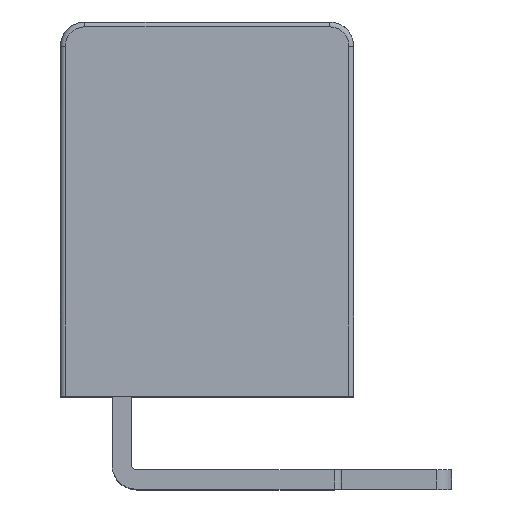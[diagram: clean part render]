
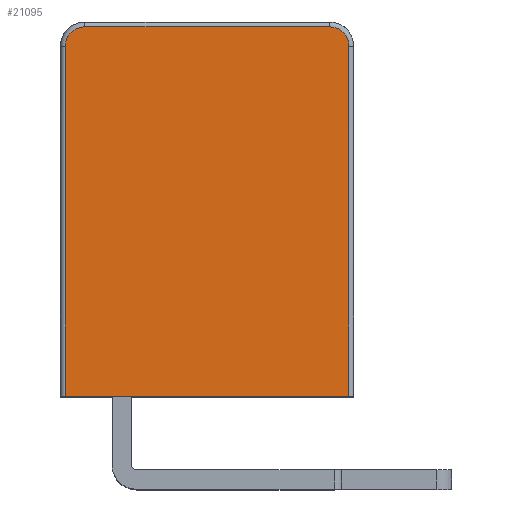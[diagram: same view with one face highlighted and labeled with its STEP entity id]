
A CAD part, top view. The second image highlights one B-rep face of the part: STEP entity #21095.
In plain terms, the highlighted planar face has unit normal (0, 0.009, 1).
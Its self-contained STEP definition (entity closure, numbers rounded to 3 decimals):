
#2737=DIRECTION('',(0.,-1.,0.009));
#2738=VECTOR('',#2737,14.302);
#2739=CARTESIAN_POINT('',(11.8,14.303,-6.783));
#2740=LINE('',#2739,#2738);
#2746=DIRECTION('',(1.,0.,0.));
#2747=VECTOR('',#2746,11.6);
#2748=CARTESIAN_POINT('',(0.2,0.002,-6.658));
#2749=LINE('',#2748,#2747);
#2750=CARTESIAN_POINT('',(1.,14.304,
-6.783));
#2751=DIRECTION('',(0.,0.009,1.));
#2752=DIRECTION('',(0.,1.,-0.009));
#2753=AXIS2_PLACEMENT_3D('',#2750,#2751,#2752);
#2755=DIRECTION('',(0.,1.,-0.009));
#2756=VECTOR('',#2755,14.302);
#2757=CARTESIAN_POINT('',(0.2,0.002,-6.658));
#2758=LINE('',#2757,#2756);
#2765=CARTESIAN_POINT('',(0.2,0.002,
-6.658));
#2788=DIRECTION('',(1.,0.,0.));
#2789=VECTOR('',#2788,10.);
#2790=CARTESIAN_POINT('',(1.,15.103,
-6.79));
#2791=LINE('',#2790,#2789);
#2801=CARTESIAN_POINT('',(11.,14.304,-6.783));
#2802=DIRECTION('',(0.,-0.009,-1.));
#2803=DIRECTION('',(0.,1.,-0.009));
#2804=AXIS2_PLACEMENT_3D('',#2801,#2802,#2803);
#14737=VERTEX_POINT('',#2765);
#14738=CARTESIAN_POINT('',(11.8,0.002,-6.658));
#14739=VERTEX_POINT('',#14738);
#14744=CARTESIAN_POINT('',(0.2,14.303,
-6.783));
#14745=VERTEX_POINT('',#14744);
#14801=CARTESIAN_POINT('',(1.,15.103,
-6.79));
#14802=VERTEX_POINT('',#14801);
#14803=CARTESIAN_POINT('',(11.,15.103,
-6.79));
#14804=VERTEX_POINT('',#14803);
#14805=CARTESIAN_POINT('',(11.8,14.303,
-6.783));
#14806=VERTEX_POINT('',#14805);
#21078=CARTESIAN_POINT('',(-0.768,7.102,-6.72));
#21079=DIRECTION('',(0.,0.009,1.));
#21080=DIRECTION('',(1.,0.,0.));
#21081=AXIS2_PLACEMENT_3D('',#21078,#21079,#21080);
#21082=PLANE('',#21081);
#21083=ORIENTED_EDGE('',*,*,#20975,.F.);
#21085=ORIENTED_EDGE('',*,*,#21084,.T.);
#21087=ORIENTED_EDGE('',*,*,#21086,.F.);
#21089=ORIENTED_EDGE('',*,*,#21088,.T.);
#21091=ORIENTED_EDGE('',*,*,#21090,.T.);
#21092=ORIENTED_EDGE('',*,*,#21071,.T.);
#21093=EDGE_LOOP('',(#21083,#21085,#21087,#21089,#21091,#21092));
#21094=FACE_OUTER_BOUND('',#21093,.F.);
#21095=ADVANCED_FACE('',(#21094),#21082,.T.);
#2754=CIRCLE('',#2753,0.8);
#2805=CIRCLE('',#2804,0.8);
#20975=EDGE_CURVE('',#14737,#14739,#2749,.T.);
#21071=EDGE_CURVE('',#14806,#14739,#2740,.T.);
#21084=EDGE_CURVE('',#14737,#14745,#2758,.T.);
#21086=EDGE_CURVE('',#14802,#14745,#2754,.T.);
#21088=EDGE_CURVE('',#14802,#14804,#2791,.T.);
#21090=EDGE_CURVE('',#14804,#14806,#2805,.T.);
